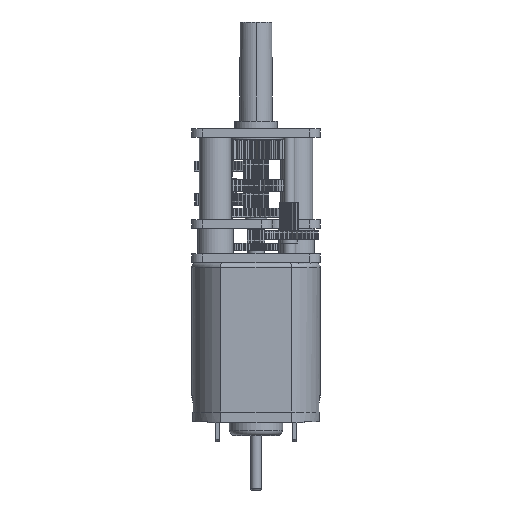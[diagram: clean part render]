
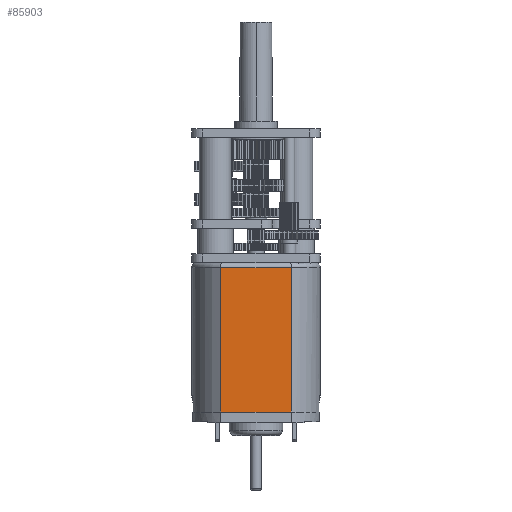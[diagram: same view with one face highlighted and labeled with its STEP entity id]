
A CAD part, front view. The second image highlights one B-rep face of the part: STEP entity #85903.
In plain terms, the highlighted planar face has unit normal (0, -1, 0).
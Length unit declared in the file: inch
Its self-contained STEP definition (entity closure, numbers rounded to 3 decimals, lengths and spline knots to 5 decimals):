
#884 = CARTESIAN_POINT ( 'NONE',  ( 0.04353, -0.19685, -0.55118 ) ) ;
#2504 = B_SPLINE_CURVE_WITH_KNOTS ( 'NONE', 3,
 ( #59302, #111399, #884, #86251 ),
 .UNSPECIFIED., .F., .F.,
 ( 4, 4 ),
 ( 0., 1. ),
 .UNSPECIFIED. ) ;
#3229 = DIRECTION ( 'NONE',  ( -1., 0., 0. ) ) ;
#16289 = EDGE_LOOP ( 'NONE', ( #21177, #105483, #151136, #72407 ) ) ;
#17600 = PLANE ( 'NONE',  #144807 ) ;
#21177 = ORIENTED_EDGE ( 'NONE', *, *, #61995, .T. ) ;
#25965 = LINE ( 'NONE', #42069, #50240 ) ;
#27230 = CARTESIAN_POINT ( 'NONE',  ( 0.13057, -0.19683, -0.55118 ) ) ;
#27843 = LINE ( 'NONE', #151837, #66860 ) ;
#33712 = DIRECTION ( 'NONE',  ( 1., 0., 0. ) ) ;
#37680 = EDGE_CURVE ( 'NONE', #79465, #96275, #2504, .T. ) ;
#41859 = VERTEX_POINT ( 'NONE', #111051 ) ;
#42069 = CARTESIAN_POINT ( 'NONE',  ( -0.13058, -0.19685, -0.55118 ) ) ;
#46331 = CARTESIAN_POINT ( 'NONE',  ( 0., -0.19685, -0.55118 ) ) ;
#50240 = VECTOR ( 'NONE', #147281, 39.37008 ) ;
#58536 = CARTESIAN_POINT ( 'NONE',  ( -0.13057, -0.19683, -0.55118 ) ) ;
#59302 = CARTESIAN_POINT ( 'NONE',  ( -0.13057, -0.19683, -0.55118 ) ) ;
#61995 = EDGE_CURVE ( 'NONE', #96275, #41859, #27843, .T. ) ;
#66860 = VECTOR ( 'NONE', #137488, 39.37008 ) ;
#72407 = ORIENTED_EDGE ( 'NONE', *, *, #37680, .T. ) ;
#79465 = VERTEX_POINT ( 'NONE', #58536 ) ;
#85903 = ADVANCED_FACE ( 'NONE', ( #166709 ), #17600, .T. ) ;
#86251 = CARTESIAN_POINT ( 'NONE',  ( 0.13057, -0.19683, -0.55118 ) ) ;
#89655 = EDGE_CURVE ( 'NONE', #79465, #111946, #25965, .T. ) ;
#96275 = VERTEX_POINT ( 'NONE', #27230 ) ;
#99891 = CARTESIAN_POINT ( 'NONE',  ( -0.13058, -0.19685, -0.01969 ) ) ;
#105483 = ORIENTED_EDGE ( 'NONE', *, *, #138357, .T. ) ;
#111051 = CARTESIAN_POINT ( 'NONE',  ( 0.13058, -0.19685, -0.01969 ) ) ;
#111399 = CARTESIAN_POINT ( 'NONE',  ( -0.04353, -0.19685, -0.55118 ) ) ;
#111946 = VERTEX_POINT ( 'NONE', #99891 ) ;
#114626 = DIRECTION ( 'NONE',  ( 0., -1., 0. ) ) ;
#120529 = VECTOR ( 'NONE', #3229, 39.37008 ) ;
#126362 = LINE ( 'NONE', #156794, #120529 ) ;
#137488 = DIRECTION ( 'NONE',  ( 0., 0., 1. ) ) ;
#138357 = EDGE_CURVE ( 'NONE', #41859, #111946, #126362, .T. ) ;
#144807 = AXIS2_PLACEMENT_3D ( 'NONE', #46331, #114626, #33712 ) ;
#147281 = DIRECTION ( 'NONE',  ( 0., 0., 1. ) ) ;
#151136 = ORIENTED_EDGE ( 'NONE', *, *, #89655, .F. ) ;
#151837 = CARTESIAN_POINT ( 'NONE',  ( 0.13058, -0.19685, -0.55118 ) ) ;
#156794 = CARTESIAN_POINT ( 'NONE',  ( 0., -0.19685, -0.01969 ) ) ;
#166709 = FACE_OUTER_BOUND ( 'NONE', #16289, .T. ) ;
